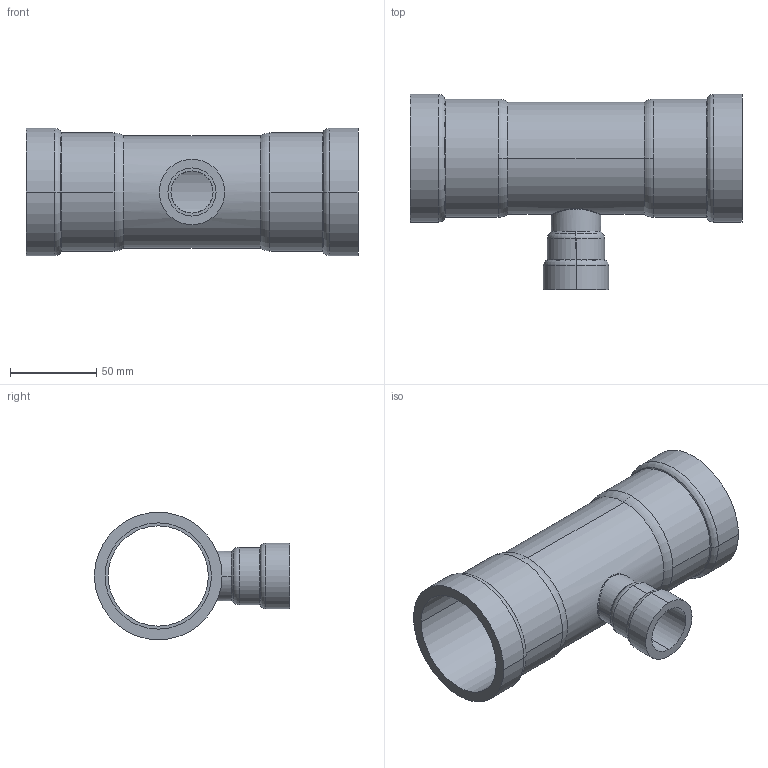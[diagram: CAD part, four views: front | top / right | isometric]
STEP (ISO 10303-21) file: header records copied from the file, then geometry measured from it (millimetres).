
FILE_DESCRIPTION(('Creo Elements/Direct Modeling STEP Export'),'2;1');
FILE_NAME('C9415_2_3-4_2.stp','2020-07-15T10:23:09',(''),(''),'PTC Creo Elements/Direct Modeling STEP processor for AP214 (Solid Model)','PTC Creo Elements/Direct Modeling 19.0C 15-Aug-2015 (C) Parametric Technology GmbH','');
FILE_SCHEMA(('AUTOMOTIVE_DESIGN { 1 0 10303 214 1 1 1 1 }'));
Length unit declared in the file: millimetre
Products named in the file (2): C9415_2_3-4_2
Assembly tree (1 placements, depth 2):
  C9415_2_3-4_2
    C9415_2_3-4_2
Bounding box: 192.02 x 112.85 x 73.8 mm (x, y, z)
Volume: 169038.3 mm3; surface area: 89535.8 mm2
Topology: 1 solids, 1 shells, 56 faces, 130 edges, 80 vertices
Faces by surface type: cylinder 26, torus 12, cone 8, plane 6, bspline 4
Entity records: 5035 total; most frequent: CARTESIAN_POINT 3856, ORIENTED_EDGE 260, DIRECTION 222, EDGE_CURVE 130, AXIS2_PLACEMENT_3D 94, VERTEX_POINT 80, EDGE_LOOP 64, FACE_OUTER_BOUND 56
